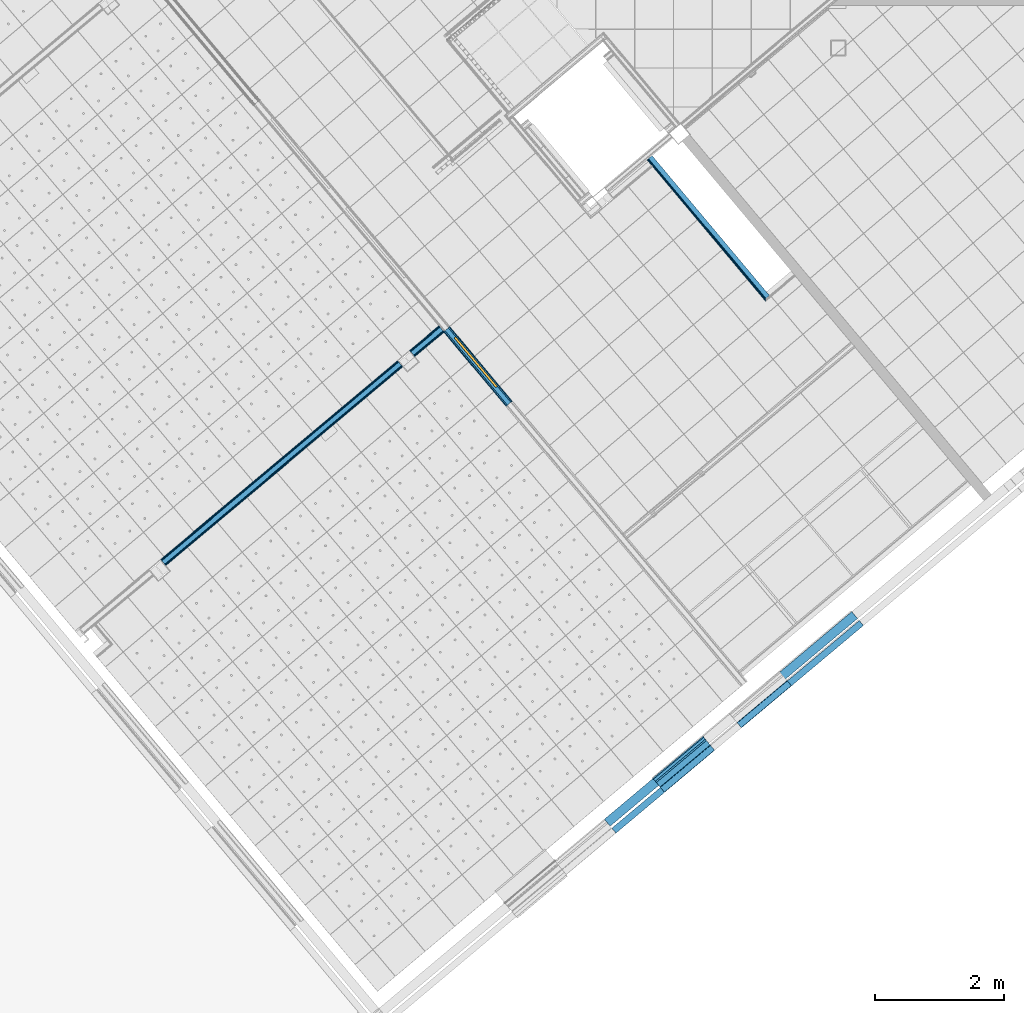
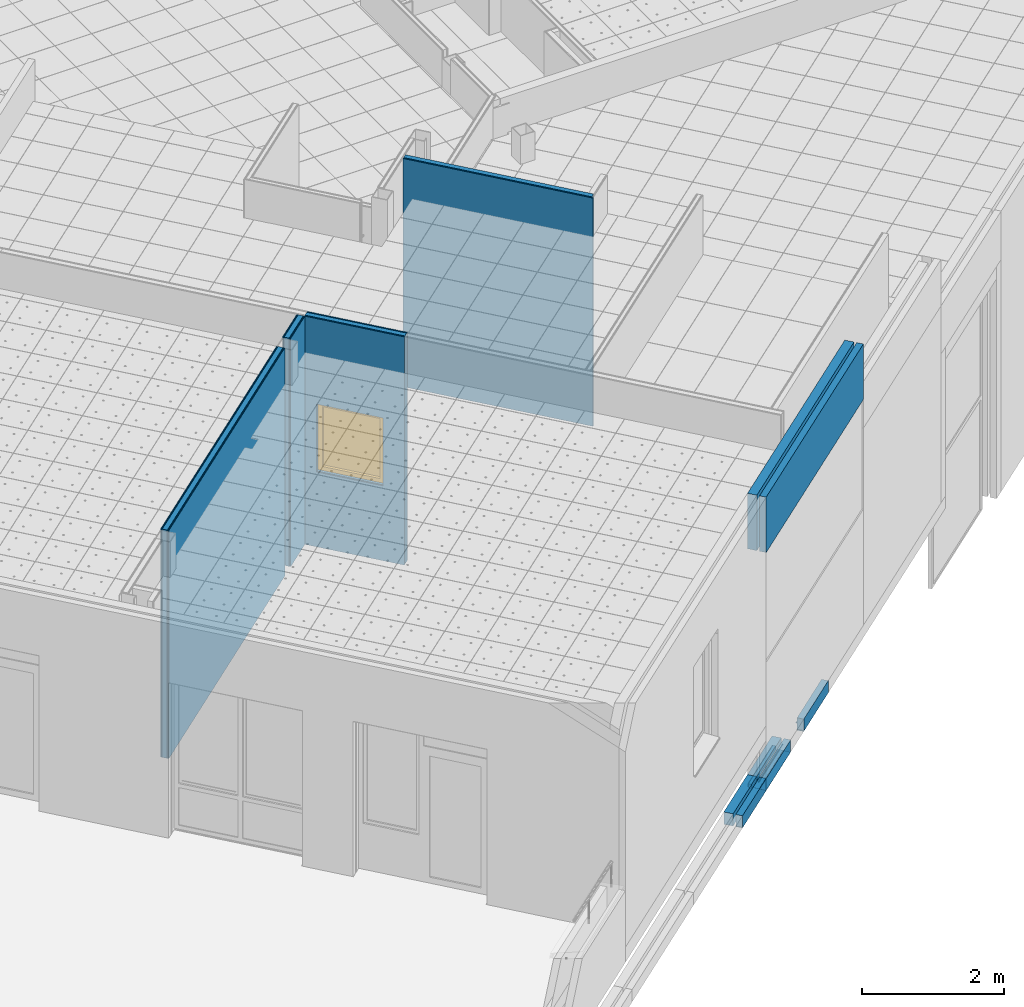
# One storey, part 52 of 321: 30 building element parts, 1 window, 1 opening, 8 elements without a shape of their own.
"""IFC2X3 building model written with IfcOpenShell, lengths in millimetres."""

from ifc_helpers import new_model, entity, si_unit, converted_unit, derived_unit, money_unit, direction, frame, origin_with_axes, place, context, subcontext, project, spatial, open_shell, faceted_brep, surface_model, material, type_object, element, fill, aggregate, save


model = new_model("IFC2X3")

# Units and contexts
model_context = context("Model", 3, precision=0.01, world=origin_with_axes(), true_north=direction((0.0, 1.0)))
plan_context = context("Plan", 3, precision=0.01, world=origin_with_axes(), true_north=direction((0.0, 1.0)))
body_context = subcontext(model_context, "Body", "Model", "MODEL_VIEW")
ifc_project = project(units=[si_unit("LENGTHUNIT", "METRE", prefix="MILLI"), si_unit("AREAUNIT", "SQUARE_METRE"), si_unit("VOLUMEUNIT", "CUBIC_METRE"), converted_unit("PLANEANGLEUNIT", "DEGREE", entity("IfcPlaneAngleMeasure", 0.0174532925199), si_unit("PLANEANGLEUNIT", "RADIAN"), dimensions=[0, 0, 0, 0, 0, 0, 0]), money_unit("EUR"), converted_unit("TIMEUNIT", "Year", entity("IfcTimeMeasure", 31556926.0), si_unit("TIMEUNIT", "SECOND"), dimensions=[0, 0, 1, 0, 0, 0, 0]), si_unit("MASSUNIT", "GRAM", prefix="KILO"), si_unit("THERMODYNAMICTEMPERATUREUNIT", "DEGREE_CELSIUS"), si_unit("LUMINOUSINTENSITYUNIT", "LUMEN"), si_unit("ENERGYUNIT", "JOULE", prefix="MEGA"), derived_unit("THERMALCONDUCTANCEUNIT", [(si_unit("POWERUNIT", "WATT"), 1), (si_unit("LENGTHUNIT", "METRE"), -1), (si_unit("THERMODYNAMICTEMPERATUREUNIT", "KELVIN"), -1)]), derived_unit("SPECIFICHEATCAPACITYUNIT", [(si_unit("ENERGYUNIT", "JOULE"), 1), (si_unit("MASSUNIT", "GRAM", prefix="KILO"), -1), (si_unit("THERMODYNAMICTEMPERATUREUNIT", "KELVIN"), -1)]), derived_unit("MASSDENSITYUNIT", [(si_unit("MASSUNIT", "GRAM", prefix="KILO"), 1), (si_unit("VOLUMEUNIT", "CUBIC_METRE"), -1)])], contexts=[model_context, plan_context])

# Site, building, storey
site_placement = place(None, origin_with_axes())
site = spatial("IfcSite", under=ifc_project, at=site_placement, Name="Fortuinstraat Woensdrecht", CompositionType="ELEMENT")
building_placement = place(site_placement, origin_with_axes())
building = spatial("IfcBuilding", under=site, at=building_placement, Name="IKC Fortuna", CompositionType="ELEMENT")
storey_placement = place(building_placement, frame((0.0, 0.0, 4000.0), z_axis=(0.0, 0.0, 1.0), x_axis=(1.0, 0.0, 0.0)))
storey = spatial("IfcBuildingStorey", under=building, at=storey_placement, Name="01 eerste verdieping", CompositionType="ELEMENT", Elevation=4000.0)

# Window
window_style = type_object("IfcWindowStyle", Name="R1 25", ConstructionType="NOTDEFINED", OperationType="SINGLE_PANEL", ParameterTakesPrecedence=False, Sizeable=False)
wall_2_placement = place(storey_placement, frame((19565.267448, -2594.74306234, 1360.0), z_axis=(0.0, 0.0, 1.0), x_axis=(0.642787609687, -0.766044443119, 0.0)))
opening_placement = place(wall_2_placement, frame((678.026057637, 0.0, 1290.0), z_axis=(0.0, 0.0, 1.0), x_axis=(1.0, 0.0, 0.0)))
window_placement = place(opening_placement, frame((500.0, 0.0, 0.0), z_axis=(0.0, 0.0, 1.0), x_axis=(-1.0, 0.0, 0.0)))
window = element("IfcWindow", 1, at=window_placement, inside=storey, type_object=window_style, Name="32_Raam_h.06", ObjectType="WINDOW", OverallHeight=1167.0, OverallWidth=1000.0, context=body_context, shape_type="SurfaceModel", body=[
    faceted_brep([(67.0, -62.5, 1100.0), (67.0, -0.500000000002, 1100.0), (0.0, -0.499999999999, 1100.0), (0.0, -62.5, 1100.0), (67.0, -62.5, 67.0), (67.0, -0.500000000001, 67.0), (0.0, -0.499999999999, 67.0), (0.0, -62.5, 67.0)], [[[0, 1, 2, 3]], [[4, 5, 1, 0]], [[1, 5, 6, 2]], [[3, 2, 6, 7]], [[0, 3, 7, 4]], [[7, 6, 5, 4]]]),
    faceted_brep([(933.0, -62.5, 67.0), (933.0, -0.500000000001, 67.0), (1000.0, -0.500000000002, 67.0), (1000.0, -62.5, 67.0), (933.0, -62.5, 1100.0), (933.0, -0.500000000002, 1100.0), (1000.0, -0.500000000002, 1100.0), (1000.0, -62.5, 1100.0)], [[[0, 1, 2, 3]], [[4, 5, 1, 0]], [[1, 5, 6, 2]], [[3, 2, 6, 7]], [[0, 3, 7, 4]], [[7, 6, 5, 4]]]),
    faceted_brep([(67.0, -62.5, 67.0), (67.0, -0.500000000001, 67.0), (0.0, -0.499999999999, 67.0), (0.0, -62.5, 67.0), (933.0, -62.5, 67.0), (933.0, -0.500000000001, 67.0), (1000.0, -0.500000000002, 67.0), (1000.0, -0.500000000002, 0.0), (0.0, -0.499999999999, 0.0), (0.0, -62.5, 0.0), (1000.0, -62.5, 0.0), (1000.0, -62.5, 67.0)], [[[0, 1, 2, 3]], [[4, 5, 1, 0]], [[1, 5, 6, 7, 8, 2]], [[3, 2, 8, 9]], [[0, 3, 9, 10, 11, 4]], [[11, 6, 5, 4]], [[10, 7, 6, 11]], [[9, 8, 7, 10]]]),
    faceted_brep([(933.0, -62.5, 1100.0), (933.0, -0.500000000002, 1100.0), (1000.0, -0.500000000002, 1100.0), (1000.0, -62.5, 1100.0), (67.0, -62.5, 1100.0), (67.0, -0.500000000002, 1100.0), (0.0, -0.499999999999, 1100.0), (0.0, -0.499999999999, 1167.0), (1000.0, -0.500000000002, 1167.0), (1000.0, -62.5, 1167.0), (0.0, -62.5, 1167.0), (0.0, -62.5, 1100.0)], [[[0, 1, 2, 3]], [[4, 5, 1, 0]], [[1, 5, 6, 7, 8, 2]], [[3, 2, 8, 9]], [[0, 3, 9, 10, 11, 4]], [[11, 6, 5, 4]], [[10, 7, 6, 11]], [[9, 8, 7, 10]]]),
    surface_model("IfcShellBasedSurfaceModel", [(67.0, -64.5, 67.0), (933.0, -64.5, 67.0), (933.0, -64.5, 1100.0), (67.0, -64.5, 1100.0)], [open_shell([[[0, 1, 2, 3]]])]),
    surface_model("IfcShellBasedSurfaceModel", [(67.0, -44.5, 67.0), (67.0, -44.5, 1100.0), (933.0, -44.5, 1100.0), (933.0, -44.5, 67.0)], [open_shell([[[0, 1, 2, 3]]])]),
])

# Covering, building element parts
covering_type_1 = type_object("IfcCoveringType", Name="41 Rollaag 280 x 210", PredefinedType="NOTDEFINED")
covering_1_placement = place(storey_placement, frame((22841.5816904, -9641.36528917, 237.5), z_axis=(0.0, 0.0, 1.0), x_axis=(-0.766044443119, -0.642787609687, 0.0)))
covering_1 = element("IfcCovering", 2, at=covering_1_placement, inside=storey, type_object=covering_type_1, Name="41_Afwerking_Rollaag", PredefinedType="NOTDEFINED")
ifc_material_1 = material(Name="Steen - Baksteen Accent Rollaag")
building_element_part_1_placement = place(covering_1_placement, origin_with_axes())
building_element_part_1 = element("IfcBuildingElementPart", 3, at=building_element_part_1_placement, material=ifc_material_1, Name="Steen - Baksteen Accent Rollaag", context=body_context, shape_type="Brep", body=[
    faceted_brep([(980.0, 40.0, 2.49999999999), (842.316577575, 40.0, 2.49999999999), (842.316577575, 40.0, 21.9276925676), (980.0, 40.0, 21.9276925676), (980.0, 40.0, 210.0), (0.0, 40.0, 210.0), (0.0, 40.0, 21.9276925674), (138.516395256, 40.0, 21.9276925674), (138.516395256, 40.0, 2.49999999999), (0.0, 40.0, 2.49999999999), (0.0, 40.0, 0.0), (980.0, 40.0, 0.0), (980.0, 128.934515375, 2.49999999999), (842.316577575, 128.934515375, 2.49999999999), (842.316577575, 128.934515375, 6.5), (842.316577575, 127.177156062, 10.7426406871), (842.316577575, 122.934515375, 12.5), (842.316577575, 50.9345153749, 12.5), (842.316577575, 42.4492340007, 16.0147186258), (980.0, 42.4492340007, 16.0147186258), (980.0, 140.0, 0.0), (980.0, 140.0, 210.0), (980.0, 50.9345153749, 12.5), (980.0, 122.934515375, 12.5), (980.0, 127.177156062, 10.7426406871), (980.0, 128.934515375, 6.5), (0.0, 140.0, 210.0), (0.0, 128.934515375, 2.49999999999), (0.0, 128.934515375, 6.5), (0.0, 127.177156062, 10.7426406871), (0.0, 122.934515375, 12.5), (0.0, 50.9345153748, 12.5), (0.0, 42.4492340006, 16.0147186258), (0.0, 140.0, 0.0), (138.516395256, 42.4492340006, 16.0147186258), (138.516395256, 50.9345153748, 12.5), (138.516395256, 122.934515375, 12.5), (138.516395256, 127.177156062, 10.7426406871), (138.516395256, 128.934515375, 6.5), (138.516395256, 128.934515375, 2.49999999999)], [[[0, 1, 2, 3, 4, 5, 6, 7, 8, 9, 10, 11]], [[1, 0, 12, 13]], [[2, 1, 13, 14, 15, 16, 17, 18]], [[3, 2, 18, 19]], [[12, 0, 11, 20, 21, 4, 3, 19, 22, 23, 24, 25]], [[5, 4, 21, 26]], [[9, 27, 28, 29, 30, 31, 32, 6, 5, 26, 33, 10]], [[6, 32, 34, 7]], [[8, 7, 34, 35, 36, 37, 38, 39]], [[27, 9, 8, 39]], [[33, 20, 11, 10]], [[12, 25, 14, 13]], [[25, 24, 15, 14]], [[24, 23, 16, 15]], [[23, 22, 17, 16]], [[22, 19, 18, 17]], [[26, 21, 20, 33]], [[28, 27, 39, 38]], [[29, 28, 38, 37]], [[30, 29, 37, 36]], [[31, 30, 36, 35]], [[32, 31, 35, 34]]]),
])
ifc_material_2 = material(Name="ALG - ISOLATIE")
building_element_part_2_placement = place(covering_1_placement, origin_with_axes())
building_element_part_2 = element("IfcBuildingElementPart", 4, at=building_element_part_2_placement, material=ifc_material_2, Name="ALG - ISOLATIE", context=body_context, shape_type="Brep", body=[
    faceted_brep([(0.0, 0.0, 0.0), (980.0, 0.0, 0.0), (980.0, -140.0, 0.0), (0.0, -140.0, 0.0), (0.0, 0.0, 210.0), (980.0, 0.0, 210.0), (980.0, -140.0, 210.0), (0.0, -140.0, 210.0)], [[[0, 1, 2, 3]], [[4, 5, 1, 0]], [[2, 1, 5, 6]], [[3, 2, 6, 7]], [[4, 0, 3, 7]], [[7, 6, 5, 4]]]),
])
aggregate(covering_1, [building_element_part_1, building_element_part_2])

# Wall, building element parts
wall_type_1 = type_object("IfcWallType", Name="21 MW hoofd 280", PredefinedType="NOTDEFINED")
wall_1_placement = place(storey_placement, frame((22751.591425, -9534.11906709, 4335.0), z_axis=(0.0, 0.0, 1.0), x_axis=(0.766044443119, 0.642787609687, 0.0)))
wall_1 = element("IfcWall", 5, at=wall_1_placement, inside=storey, type_object=wall_type_1, Name="21_Wand_Baksteen")
building_element_part_3_placement = place(wall_1_placement, origin_with_axes())
building_element_part_3 = element("IfcBuildingElementPart", 6, at=building_element_part_3_placement, material=ifc_material_2, Name="ALG - ISOLATIE", context=body_context, shape_type="Brep", body=[
    faceted_brep([(0.0, 0.0, 0.0), (4009.68348848, 0.0, 0.0), (4009.68348848, -140.0, 0.0), (0.0, -140.0, 0.0), (0.0, 0.0, 955.0), (4009.68348848, 0.0, 955.0), (4009.68348848, -140.0, 955.0), (0.0, -140.0, 955.0)], [[[0, 1, 2, 3]], [[4, 5, 1, 0]], [[2, 1, 5, 6]], [[3, 2, 6, 7]], [[4, 0, 3, 7]], [[7, 6, 5, 4]]]),
])
ifc_material_3 = material(Name="Steen - Baksteen Hoofd")
building_element_part_4_placement = place(wall_1_placement, origin_with_axes())
building_element_part_4 = element("IfcBuildingElementPart", 7, at=building_element_part_4_placement, material=ifc_material_3, Name="Steen - Baksteen Hoofd", context=body_context, shape_type="Brep", body=[
    faceted_brep([(0.0, -180.0, 0.0), (4009.68348848, -180.0, 0.0), (4009.68348848, -280.0, 0.0), (0.0, -280.0, 0.0), (0.0, -180.0, 955.0), (4009.68348848, -180.0, 955.0), (4009.68348848, -280.0, 955.0), (0.0, -280.0, 955.0)], [[[0, 1, 2, 3]], [[4, 5, 1, 0]], [[2, 1, 5, 6]], [[3, 2, 6, 7]], [[4, 0, 3, 7]], [[7, 6, 5, 4]]]),
])
aggregate(wall_1, [building_element_part_3, building_element_part_4])

# Wall, opening
wall_type_2 = type_object("IfcWallType", Name="MS125 2.75.2A 125", PredefinedType="NOTDEFINED")
wall_2 = element("IfcWall", 8, at=wall_2_placement, inside=storey, type_object=wall_type_2, Name="22_Wand_Binnenwand")
opening = element("IfcOpeningElement", 9, at=opening_placement, cuts=wall_2, Name="32_Raam_h.06", context=body_context, shape_type="Brep", body=[
    faceted_brep([(-500.0, -125.0, 0.0), (-500.0, -125.0, 1167.0), (-500.0, 250.0, 1167.0), (-500.0, 250.0, 0.0), (500.0, -125.0, 0.0), (500.0, -125.0, 1167.0), (500.0, 250.0, 1167.0), (500.0, 250.0, 0.0)], [[[0, 1, 2, 3]], [[0, 4, 5, 1]], [[1, 5, 6, 2]], [[3, 2, 6, 7]], [[4, 0, 3, 7]], [[5, 4, 7, 6]]]),
])

fill(opening, window)

# Building element part
ifc_material_4 = material(Name="Gipsplaat")
building_element_part_5_placement = place(wall_2_placement, origin_with_axes())
building_element_part_5 = element("IfcBuildingElementPart", 10, at=building_element_part_5_placement, material=ifc_material_4, Name="Gipsplaat", context=body_context, shape_type="Brep", body=[
    faceted_brep([(1500.02993951, 50.0, 3930.0), (0.0, 50.0, 3930.0), (0.0, 50.0, 0.0), (1500.02993951, 50.0, 0.0), (178.026057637, 50.0, 1290.0), (178.026057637, 50.0, 2457.0), (1178.02605764, 50.0, 2457.0), (1178.02605764, 50.0, 1290.0), (1500.02993951, 62.5, 3930.0), (0.0, 62.5, 3930.0), (0.0, 62.5, 0.0), (1500.02993951, 62.5, 0.0), (178.026057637, 62.5, 1290.0), (178.026057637, 62.5, 2457.0), (1178.02605764, 62.5, 2457.0), (1178.02605764, 62.5, 1290.0)], [[[0, 1, 2, 3], [4, 5, 6, 7]], [[8, 9, 1, 0]], [[2, 1, 9, 10]], [[3, 2, 10, 11]], [[8, 0, 3, 11]], [[12, 13, 5, 4]], [[13, 14, 6, 5]], [[14, 15, 7, 6]], [[15, 12, 4, 7]], [[11, 10, 9, 8], [12, 15, 14, 13]]]),
])

building_element_part_6_placement = place(wall_2_placement, origin_with_axes())
building_element_part_6 = element("IfcBuildingElementPart", 11, at=building_element_part_6_placement, material=ifc_material_4, Name="Gipsplaat", context=body_context, shape_type="Brep", body=[
    faceted_brep([(1500.02993951, 37.5, 3930.0), (0.0, 37.5, 3930.0), (0.0, 37.5, 0.0), (1500.02993951, 37.5, 0.0), (178.026057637, 37.5, 1290.0), (178.026057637, 37.5, 2457.0), (1178.02605764, 37.5, 2457.0), (1178.02605764, 37.5, 1290.0), (1500.02993951, 50.0, 3930.0), (0.0, 50.0, 3930.0), (0.0, 50.0, 0.0), (1500.02993951, 50.0, 0.0), (178.026057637, 50.0, 1290.0), (178.026057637, 50.0, 2457.0), (1178.02605764, 50.0, 2457.0), (1178.02605764, 50.0, 1290.0)], [[[0, 1, 2, 3], [4, 5, 6, 7]], [[8, 9, 1, 0]], [[2, 1, 9, 10]], [[3, 2, 10, 11]], [[8, 0, 3, 11]], [[12, 13, 5, 4]], [[13, 14, 6, 5]], [[14, 15, 7, 6]], [[15, 12, 4, 7]], [[11, 10, 9, 8], [12, 15, 14, 13]]]),
])

ifc_material_5 = material(Name="Isolatie - Steenwol LSW")
building_element_part_7_placement = place(wall_2_placement, origin_with_axes())
building_element_part_7 = element("IfcBuildingElementPart", 12, at=building_element_part_7_placement, material=ifc_material_5, Name="Isolatie - Steenwol LSW", context=body_context, shape_type="Brep", body=[
    faceted_brep([(1500.02993951, -37.5, 3930.0), (0.0, -37.5, 3930.0), (0.0, -37.5, 0.0), (1500.02993951, -37.5, 0.0), (178.026057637, -37.5, 1290.0), (178.026057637, -37.5, 2457.0), (1178.02605764, -37.5, 2457.0), (1178.02605764, -37.5, 1290.0), (1500.02993951, 37.5, 3930.0), (0.0, 37.5, 3930.0), (0.0, 37.5, 0.0), (1500.02993951, 37.5, 0.0), (178.026057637, 37.5, 1290.0), (178.026057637, 37.5, 2457.0), (1178.02605764, 37.5, 2457.0), (1178.02605764, 37.5, 1290.0)], [[[0, 1, 2, 3], [4, 5, 6, 7]], [[8, 9, 1, 0]], [[2, 1, 9, 10]], [[3, 2, 10, 11]], [[8, 0, 3, 11]], [[12, 13, 5, 4]], [[13, 14, 6, 5]], [[14, 15, 7, 6]], [[15, 12, 4, 7]], [[11, 10, 9, 8], [12, 15, 14, 13]]]),
])

building_element_part_8_placement = place(wall_2_placement, origin_with_axes())
building_element_part_8 = element("IfcBuildingElementPart", 13, at=building_element_part_8_placement, material=ifc_material_4, Name="Gipsplaat", context=body_context, shape_type="Brep", body=[
    faceted_brep([(1500.02993951, -50.0, 3930.0), (0.0, -50.0, 3930.0), (0.0, -50.0, 0.0), (1500.02993951, -50.0, 0.0), (178.026057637, -50.0, 1290.0), (178.026057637, -50.0, 2457.0), (1178.02605764, -50.0, 2457.0), (1178.02605764, -50.0, 1290.0), (1500.02993951, -37.5, 3930.0), (0.0, -37.5, 3930.0), (0.0, -37.5, 0.0), (1500.02993951, -37.5, 0.0), (178.026057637, -37.5, 1290.0), (178.026057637, -37.5, 2457.0), (1178.02605764, -37.5, 2457.0), (1178.02605764, -37.5, 1290.0)], [[[0, 1, 2, 3], [4, 5, 6, 7]], [[8, 9, 1, 0]], [[2, 1, 9, 10]], [[3, 2, 10, 11]], [[8, 0, 3, 11]], [[12, 13, 5, 4]], [[13, 14, 6, 5]], [[14, 15, 7, 6]], [[15, 12, 4, 7]], [[11, 10, 9, 8], [12, 15, 14, 13]]]),
])

building_element_part_9_placement = place(wall_2_placement, origin_with_axes())
building_element_part_9 = element("IfcBuildingElementPart", 14, at=building_element_part_9_placement, material=ifc_material_4, Name="Gipsplaat", context=body_context, shape_type="Brep", body=[
    faceted_brep([(1500.02993951, -62.5, 3930.0), (0.0, -62.5, 3930.0), (0.0, -62.5, 0.0), (1500.02993951, -62.5, 0.0), (178.026057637, -62.5, 1290.0), (178.026057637, -62.5, 2457.0), (1178.02605764, -62.5, 2457.0), (1178.02605764, -62.5, 1290.0), (1500.02993951, -50.0, 3930.0), (0.0, -50.0, 3930.0), (0.0, -50.0, 0.0), (1500.02993951, -50.0, 0.0), (178.026057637, -50.0, 1290.0), (178.026057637, -50.0, 2457.0), (1178.02605764, -50.0, 2457.0), (1178.02605764, -50.0, 1290.0)], [[[0, 1, 2, 3], [4, 5, 6, 7]], [[8, 9, 1, 0]], [[2, 1, 9, 10]], [[3, 2, 10, 11]], [[8, 0, 3, 11]], [[12, 13, 5, 4]], [[13, 14, 6, 5]], [[14, 15, 7, 6]], [[15, 12, 4, 7]], [[11, 10, 9, 8], [12, 15, 14, 13]]]),
])

aggregate(wall_2, [building_element_part_5, building_element_part_6, building_element_part_7, building_element_part_8, building_element_part_9])

# Wall, building element parts
wall_3_placement = place(storey_placement, frame((15185.528893, -6197.98267225, 1360.0), z_axis=(0.0, 0.0, 1.0), x_axis=(0.766044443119, 0.642787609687, 0.0)))
wall_3 = element("IfcWall", 15, at=wall_3_placement, inside=storey, type_object=wall_type_2, Name="22_Wand_Binnenwand")
building_element_part_10_placement = place(wall_3_placement, origin_with_axes())
building_element_part_10 = element("IfcBuildingElementPart", 16, at=building_element_part_10_placement, material=ifc_material_4, Name="Gipsplaat", context=body_context, shape_type="Brep", body=[
    faceted_brep([(4778.82035644, 62.5, 0.0), (4778.82035644, 50.0, 0.0), (0.0, 50.0, 0.0), (0.0, 62.5, 0.0), (4778.82035644, 62.5, 3930.0), (4778.82035644, 50.0, 3930.0), (0.0, 50.0, 3930.0), (0.0, 62.5, 3930.0)], [[[0, 1, 2, 3]], [[0, 4, 5, 1]], [[1, 5, 6, 2]], [[3, 2, 6, 7]], [[4, 0, 3, 7]], [[5, 4, 7, 6]]]),
])
building_element_part_11_placement = place(wall_3_placement, origin_with_axes())
building_element_part_11 = element("IfcBuildingElementPart", 17, at=building_element_part_11_placement, material=ifc_material_4, Name="Gipsplaat", context=body_context, shape_type="Brep", body=[
    faceted_brep([(4778.82035644, 50.0, 0.0), (4778.82035644, 37.5, 0.0), (0.0, 37.5, 0.0), (0.0, 50.0, 0.0), (4778.82035644, 50.0, 3930.0), (4778.82035644, 37.5, 3930.0), (0.0, 37.5, 3930.0), (0.0, 50.0, 3930.0)], [[[0, 1, 2, 3]], [[0, 4, 5, 1]], [[1, 5, 6, 2]], [[3, 2, 6, 7]], [[4, 0, 3, 7]], [[5, 4, 7, 6]]]),
])
building_element_part_12_placement = place(wall_3_placement, origin_with_axes())
building_element_part_12 = element("IfcBuildingElementPart", 18, at=building_element_part_12_placement, material=ifc_material_5, Name="Isolatie - Steenwol LSW", context=body_context, shape_type="Brep", body=[
    faceted_brep([(4778.82035644, 37.5, 0.0), (4778.82035644, -37.5, 0.0), (0.0, -37.5, 0.0), (0.0, 37.5, 0.0), (4778.82035644, 37.5, 3930.0), (4778.82035644, -37.5, 3930.0), (0.0, -37.5, 3930.0), (0.0, 37.5, 3930.0)], [[[0, 1, 2, 3]], [[0, 4, 5, 1]], [[1, 5, 6, 2]], [[3, 2, 6, 7]], [[4, 0, 3, 7]], [[5, 4, 7, 6]]]),
])
building_element_part_13_placement = place(wall_3_placement, origin_with_axes())
building_element_part_13 = element("IfcBuildingElementPart", 19, at=building_element_part_13_placement, material=ifc_material_4, Name="Gipsplaat", context=body_context, shape_type="Brep", body=[
    faceted_brep([(4778.82035644, -37.5, 0.0), (4778.82035644, -50.0, 0.0), (0.0, -50.0, 0.0), (0.0, -37.5, 0.0), (4778.82035644, -37.5, 3930.0), (4778.82035644, -50.0, 3930.0), (0.0, -50.0, 3930.0), (0.0, -37.5, 3930.0)], [[[0, 1, 2, 3]], [[0, 4, 5, 1]], [[1, 5, 6, 2]], [[3, 2, 6, 7]], [[4, 0, 3, 7]], [[5, 4, 7, 6]]]),
])
building_element_part_14_placement = place(wall_3_placement, origin_with_axes())
building_element_part_14 = element("IfcBuildingElementPart", 20, at=building_element_part_14_placement, material=ifc_material_4, Name="Gipsplaat", context=body_context, shape_type="Brep", body=[
    faceted_brep([(4778.82035644, -50.0, 0.0), (4778.82035644, -62.5, 0.0), (0.0, -62.5, 0.0), (0.0, -50.0, 0.0), (4778.82035644, -50.0, 3930.0), (4778.82035644, -62.5, 3930.0), (0.0, -62.5, 3930.0), (0.0, -50.0, 3930.0)], [[[0, 1, 2, 3]], [[0, 4, 5, 1]], [[1, 5, 6, 2]], [[3, 2, 6, 7]], [[4, 0, 3, 7]], [[5, 4, 7, 6]]]),
])
aggregate(wall_3, [building_element_part_10, building_element_part_11, building_element_part_12, building_element_part_13, building_element_part_14])

wall_4_placement = place(storey_placement, frame((19033.9980276, -2968.73255897, 1360.0), z_axis=(0.0, 0.0, 1.0), x_axis=(0.766044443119, 0.642787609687, 0.0)))
wall_4 = element("IfcWall", 21, at=wall_4_placement, inside=storey, type_object=wall_type_2, Name="22_Wand_Binnenwand")
building_element_part_15_placement = place(wall_4_placement, origin_with_axes())
building_element_part_15 = element("IfcBuildingElementPart", 22, at=building_element_part_15_placement, material=ifc_material_4, Name="Gipsplaat", context=body_context, shape_type="Brep", body=[
    faceted_brep([(588.32221341, 50.0, 0.0), (0.0, 50.0, 0.0), (0.0, 62.5, 0.0), (588.31389247, 62.5, 0.0), (588.32221341, 50.0, 3930.0), (0.0, 50.0, 3930.0), (0.0, 62.5, 3930.0), (588.31389247, 62.5, 3930.0)], [[[0, 1, 2, 3]], [[4, 5, 1, 0]], [[2, 1, 5, 6]], [[3, 2, 6, 7]], [[3, 7, 4, 0]], [[7, 6, 5, 4]]]),
])
building_element_part_16_placement = place(wall_4_placement, origin_with_axes())
building_element_part_16 = element("IfcBuildingElementPart", 23, at=building_element_part_16_placement, material=ifc_material_4, Name="Gipsplaat", context=body_context, shape_type="Brep", body=[
    faceted_brep([(588.330534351, 37.5, 0.0), (0.0, 37.5, 0.0), (0.0, 50.0, 0.0), (588.32221341, 50.0, 0.0), (588.330534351, 37.5, 3930.0), (0.0, 37.5, 3930.0), (0.0, 50.0, 3930.0), (588.32221341, 50.0, 3930.0)], [[[0, 1, 2, 3]], [[4, 5, 1, 0]], [[2, 1, 5, 6]], [[3, 2, 6, 7]], [[3, 7, 4, 0]], [[7, 6, 5, 4]]]),
])
building_element_part_17_placement = place(wall_4_placement, origin_with_axes())
building_element_part_17 = element("IfcBuildingElementPart", 24, at=building_element_part_17_placement, material=ifc_material_5, Name="Isolatie - Steenwol LSW", context=body_context, shape_type="Brep", body=[
    faceted_brep([(588.380459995, -37.5, 0.0), (0.0, -37.5, 0.0), (0.0, 37.5, 0.0), (588.330534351, 37.5, 0.0), (588.380459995, -37.5, 3930.0), (0.0, -37.5, 3930.0), (0.0, 37.5, 3930.0), (588.330534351, 37.5, 3930.0)], [[[0, 1, 2, 3]], [[4, 5, 1, 0]], [[2, 1, 5, 6]], [[3, 2, 6, 7]], [[3, 7, 4, 0]], [[7, 6, 5, 4]]]),
])
building_element_part_18_placement = place(wall_4_placement, origin_with_axes())
building_element_part_18 = element("IfcBuildingElementPart", 25, at=building_element_part_18_placement, material=ifc_material_4, Name="Gipsplaat", context=body_context, shape_type="Brep", body=[
    faceted_brep([(588.388780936, -50.0, 0.0), (0.0, -50.0, 0.0), (0.0, -37.5, 0.0), (588.380459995, -37.5, 0.0), (588.388780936, -50.0, 3930.0), (0.0, -50.0, 3930.0), (0.0, -37.5, 3930.0), (588.380459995, -37.5, 3930.0)], [[[0, 1, 2, 3]], [[4, 5, 1, 0]], [[2, 1, 5, 6]], [[3, 2, 6, 7]], [[3, 7, 4, 0]], [[7, 6, 5, 4]]]),
])
building_element_part_19_placement = place(wall_4_placement, origin_with_axes())
building_element_part_19 = element("IfcBuildingElementPart", 26, at=building_element_part_19_placement, material=ifc_material_4, Name="Gipsplaat", context=body_context, shape_type="Brep", body=[
    faceted_brep([(588.397101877, -62.5, 0.0), (0.0, -62.5, 0.0), (0.0, -50.0, 0.0), (588.388780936, -50.0, 0.0), (588.397101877, -62.5, 3930.0), (0.0, -62.5, 3930.0), (0.0, -50.0, 3930.0), (588.388780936, -50.0, 3930.0)], [[[0, 1, 2, 3]], [[4, 5, 1, 0]], [[2, 1, 5, 6]], [[3, 2, 6, 7]], [[3, 7, 4, 0]], [[7, 6, 5, 4]]]),
])
aggregate(wall_4, [building_element_part_15, building_element_part_16, building_element_part_17, building_element_part_18, building_element_part_19])

wall_type_3 = type_object("IfcWallType", Name="MS100 75.2A 100", PredefinedType="NOTDEFINED")
wall_5_placement = place(storey_placement, frame((22636.2333561, 53.9006994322, 1360.0), z_axis=(0.0, 0.0, 1.0), x_axis=(0.642787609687, -0.766044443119, 0.0)))
wall_5 = element("IfcWall", 27, at=wall_5_placement, inside=storey, type_object=wall_type_3, Name="22_Wand_Binnenwand")
building_element_part_20_placement = place(wall_5_placement, origin_with_axes())
building_element_part_20 = element("IfcBuildingElementPart", 28, at=building_element_part_20_placement, material=ifc_material_5, Name="Isolatie - Steenwol LSW", context=body_context, shape_type="Brep", body=[
    faceted_brep([(2862.50000486, 25.0, 0.0), (37.5, 25.0, 0.0), (37.5, 100.0, 0.0), (2862.50000486, 100.0, 0.0), (2862.50000486, 25.0, 3930.0), (37.5, 25.0, 3930.0), (37.5, 100.0, 3930.0), (2862.50000486, 100.0, 3930.0)], [[[0, 1, 2, 3]], [[4, 5, 1, 0]], [[2, 1, 5, 6]], [[3, 2, 6, 7]], [[3, 7, 4, 0]], [[7, 6, 5, 4]]]),
])
building_element_part_21_placement = place(wall_5_placement, origin_with_axes())
building_element_part_21 = element("IfcBuildingElementPart", 29, at=building_element_part_21_placement, material=ifc_material_4, Name="Gipsplaat", context=body_context, shape_type="Brep", body=[
    faceted_brep([(2875.00000486, 12.5, 0.0), (37.5, 12.5, 0.0), (37.5, 25.0, 0.0), (2875.00000486, 25.0, 0.0), (2875.00000486, 12.5, 3930.0), (37.5, 12.5, 3930.0), (37.5, 25.0, 3930.0), (2875.00000486, 25.0, 3930.0)], [[[0, 1, 2, 3]], [[4, 5, 1, 0]], [[2, 1, 5, 6]], [[3, 2, 6, 7]], [[3, 7, 4, 0]], [[7, 6, 5, 4]]]),
])
building_element_part_22_placement = place(wall_5_placement, origin_with_axes())
building_element_part_22 = element("IfcBuildingElementPart", 30, at=building_element_part_22_placement, material=ifc_material_4, Name="Gipsplaat", context=body_context, shape_type="Brep", body=[
    faceted_brep([(2887.50000486, 0.0, 0.0), (37.5, 0.0, 0.0), (37.5, 12.5, 0.0), (2887.50000486, 12.5, 0.0), (2887.50000486, 0.0, 3930.0), (37.5, 0.0, 3930.0), (37.5, 12.5, 3930.0), (2887.50000486, 12.5, 3930.0)], [[[0, 1, 2, 3]], [[4, 5, 1, 0]], [[2, 1, 5, 6]], [[3, 2, 6, 7]], [[3, 7, 4, 0]], [[7, 6, 5, 4]]]),
])
aggregate(wall_5, [building_element_part_20, building_element_part_21, building_element_part_22])

# Covering, building element parts
covering_type_2 = type_object("IfcCoveringType", Name="41 Latei MW rollaag 280 x 227", PredefinedType="NOTDEFINED")
covering_2_placement = place(storey_placement, frame((24802.6554647, -7995.82900838, 237.5), z_axis=(0.0, 0.0, 1.0), x_axis=(-0.766044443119, -0.642787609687, 0.0)))
covering_2 = element("IfcCovering", 31, at=covering_2_placement, inside=storey, type_object=covering_type_2, Name="41_Afwerking_Latei + rollaag", PredefinedType="NOTDEFINED")
ifc_material_6 = material(Name="Metaal - Staal C")
building_element_part_23_placement = place(covering_2_placement, origin_with_axes())
building_element_part_23 = element("IfcBuildingElementPart", 32, at=building_element_part_23_placement, material=ifc_material_6, Name="Metaal - Staal C", context=body_context, shape_type="Brep", body=[
    faceted_brep([(1010.0, 28.9345153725, 113.654953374), (0.0, 28.9345153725, 113.654953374), (0.0, 20.8284271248, 121.828427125), (1010.0, 20.8284271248, 121.828427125), (0.0, 28.9345153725, 108.065484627), (1010.0, 28.9345153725, 108.065484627), (0.0, 18.0000000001, 119.0), (1010.0, 18.0000000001, 119.0)], [[[0, 1, 2, 3]], [[4, 1, 0, 5]], [[1, 4, 6, 2]], [[6, 7, 3, 2]], [[5, 0, 3, 7]], [[4, 5, 7, 6]]]),
    faceted_brep([(0.0, 32.0, 2.49999999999), (0.0, 36.6213203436, 2.49999999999), (0.0, 37.1715728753, 1.17157287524), (0.0, 40.0, 0.0), (0.0, 115.609685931, 0.0), (0.0, 136.0, -4.07767729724), (0.0, 135.215535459, -8.0), (0.0, 115.215535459, -4.0), (0.0, 36.0, -4.0), (0.0, 33.1715728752, -2.82842712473), (0.0, 32.0, 0.0), (1010.0, 36.6213203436, 2.49999999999), (1010.0, 32.0, 2.49999999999), (1010.0, 37.1715728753, 1.17157287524), (1010.0, 40.0, 0.0), (1010.0, 115.609685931, 0.0), (1010.0, 136.0, -4.07767729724), (1010.0, 135.215535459, -8.0), (1010.0, 115.215535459, -4.0), (1010.0, 36.0, -4.0), (1010.0, 33.1715728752, -2.82842712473), (1010.0, 32.0, 0.0)], [[[0, 1, 2, 3, 4, 5, 6, 7, 8, 9, 10]], [[11, 1, 0, 12]], [[1, 11, 13, 2]], [[2, 13, 14, 3]], [[3, 14, 15, 4]], [[4, 15, 16, 5]], [[5, 16, 17, 6]], [[6, 17, 18, 7]], [[7, 18, 19, 8]], [[8, 19, 20, 9]], [[9, 20, 21, 10]], [[12, 0, 10, 21]], [[11, 12, 21, 20, 19, 18, 17, 16, 15, 14, 13]]]),
])
building_element_part_24_placement = place(covering_2_placement, origin_with_axes())
building_element_part_24 = element("IfcBuildingElementPart", 33, at=building_element_part_24_placement, material=ifc_material_1, Name="Steen - Baksteen Accent Rollaag", context=body_context, shape_type="Brep", body=[
    faceted_brep([(0.0, 40.0, 2.49999999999), (0.0, 128.934515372, 2.49999999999), (0.0, 128.934515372, 6.5), (0.0, 127.17715606, 10.7426406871), (0.0, 122.934515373, 12.5), (0.0, 50.9345153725, 12.5), (0.0, 42.4492339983, 16.0147186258), (0.0, 40.0, 21.9276925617), (0.0, 40.0, 210.0), (0.0, 140.0, 210.0), (0.0, 140.0, 0.0), (0.0, 115.609685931, 0.0), (0.0, 40.0, 0.0), (1010.0, 40.0, 2.49999999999), (1010.0, 128.934515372, 2.49999999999), (1010.0, 128.934515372, 6.5), (1010.0, 127.17715606, 10.7426406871), (1010.0, 122.934515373, 12.5), (1010.0, 50.9345153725, 12.5), (1010.0, 42.4492339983, 16.0147186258), (1010.0, 40.0, 21.9276925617), (1010.0, 40.0, 210.0), (1010.0, 140.0, 210.0), (1010.0, 140.0, 0.0), (1010.0, 115.609685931, 0.0), (1010.0, 40.0, 0.0)], [[[0, 1, 2, 3, 4, 5, 6, 7, 8, 9, 10, 11, 12]], [[1, 0, 13, 14]], [[2, 1, 14, 15]], [[3, 2, 15, 16]], [[4, 3, 16, 17]], [[5, 4, 17, 18]], [[6, 5, 18, 19]], [[7, 6, 19, 20]], [[7, 20, 21, 8]], [[8, 21, 22, 9]], [[9, 22, 23, 10]], [[10, 23, 24, 11]], [[11, 24, 25, 12]], [[13, 0, 12, 25]], [[14, 13, 25, 24, 23, 22, 21, 20, 19, 18, 17, 16, 15]]]),
])
aggregate(covering_2, [building_element_part_23, building_element_part_24])

covering_3_placement = place(storey_placement, frame((23615.2865779, -8992.14980339, 237.5), z_axis=(0.0, 0.0, 1.0), x_axis=(-0.766044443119, -0.642787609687, 0.0)))
covering_3 = element("IfcCovering", 34, at=covering_3_placement, inside=storey, type_object=covering_type_2, Name="41_Afwerking_Latei + rollaag", PredefinedType="NOTDEFINED")
building_element_part_25_placement = place(covering_3_placement, origin_with_axes())
building_element_part_25 = element("IfcBuildingElementPart", 35, at=building_element_part_25_placement, material=ifc_material_6, Name="Metaal - Staal C", context=body_context, shape_type="Brep", body=[
    faceted_brep([(1010.0, 28.934515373, 113.654953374), (0.0, 28.934515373, 113.654953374), (0.0, 20.8284271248, 121.828427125), (1010.0, 20.8284271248, 121.828427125), (0.0, 28.934515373, 108.065484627), (1010.0, 28.934515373, 108.065484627), (0.0, 18.0000000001, 119.0), (1010.0, 18.0000000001, 119.0)], [[[0, 1, 2, 3]], [[4, 1, 0, 5]], [[1, 4, 6, 2]], [[6, 7, 3, 2]], [[5, 0, 3, 7]], [[4, 5, 7, 6]]]),
    faceted_brep([(0.0, 32.0, 2.49999999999), (0.0, 36.6213203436, 2.49999999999), (0.0, 37.1715728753, 1.17157287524), (0.0, 40.0, 0.0), (0.0, 115.609685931, 0.0), (0.0, 136.0, -4.07767729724), (0.0, 135.215535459, -8.0), (0.0, 115.215535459, -4.0), (0.0, 36.0, -4.0), (0.0, 33.1715728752, -2.82842712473), (0.0, 32.0, 0.0), (1010.0, 36.6213203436, 2.49999999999), (1010.0, 32.0, 2.49999999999), (1010.0, 37.1715728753, 1.17157287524), (1010.0, 40.0, 0.0), (1010.0, 115.609685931, 0.0), (1010.0, 136.0, -4.07767729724), (1010.0, 135.215535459, -8.0), (1010.0, 115.215535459, -4.0), (1010.0, 36.0, -4.0), (1010.0, 33.1715728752, -2.82842712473), (1010.0, 32.0, 0.0)], [[[0, 1, 2, 3, 4, 5, 6, 7, 8, 9, 10]], [[11, 1, 0, 12]], [[1, 11, 13, 2]], [[2, 13, 14, 3]], [[3, 14, 15, 4]], [[4, 15, 16, 5]], [[5, 16, 17, 6]], [[6, 17, 18, 7]], [[7, 18, 19, 8]], [[8, 19, 20, 9]], [[9, 20, 21, 10]], [[12, 0, 10, 21]], [[11, 12, 21, 20, 19, 18, 17, 16, 15, 14, 13]]]),
])
building_element_part_26_placement = place(covering_3_placement, origin_with_axes())
building_element_part_26 = element("IfcBuildingElementPart", 36, at=building_element_part_26_placement, material=ifc_material_1, Name="Steen - Baksteen Accent Rollaag", context=body_context, shape_type="Brep", body=[
    faceted_brep([(0.0, 40.0, 2.49999999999), (0.0, 128.934515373, 2.49999999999), (0.0, 128.934515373, 6.5), (0.0, 127.17715606, 10.7426406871), (0.0, 122.934515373, 12.5), (0.0, 50.934515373, 12.5), (0.0, 42.4492339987, 16.0147186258), (0.0, 40.0, 21.9276925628), (0.0, 40.0, 210.0), (0.0, 140.0, 210.0), (0.0, 140.0, 0.0), (0.0, 115.609685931, 0.0), (0.0, 40.0, 0.0), (1010.0, 40.0, 2.49999999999), (1010.0, 128.934515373, 2.49999999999), (1010.0, 128.934515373, 6.5), (1010.0, 127.17715606, 10.7426406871), (1010.0, 122.934515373, 12.5), (1010.0, 50.934515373, 12.5), (1010.0, 42.4492339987, 16.0147186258), (1010.0, 40.0, 21.9276925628), (1010.0, 40.0, 210.0), (1010.0, 140.0, 210.0), (1010.0, 140.0, 0.0), (1010.0, 115.609685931, 0.0), (1010.0, 40.0, 0.0)], [[[0, 1, 2, 3, 4, 5, 6, 7, 8, 9, 10, 11, 12]], [[1, 0, 13, 14]], [[2, 1, 14, 15]], [[3, 2, 15, 16]], [[4, 3, 16, 17]], [[5, 4, 17, 18]], [[6, 5, 18, 19]], [[7, 6, 19, 20]], [[7, 20, 21, 8]], [[8, 21, 22, 9]], [[9, 22, 23, 10]], [[10, 23, 24, 11]], [[11, 24, 25, 12]], [[13, 0, 12, 25]], [[14, 13, 25, 24, 23, 22, 21, 20, 19, 18, 17, 16, 15]]]),
])
ifc_material_7 = material(Name="Metaal - Staal AFW")
building_element_part_27_placement = place(covering_3_placement, origin_with_axes())
building_element_part_27 = element("IfcBuildingElementPart", 37, at=building_element_part_27_placement, material=ifc_material_7, Name="Metaal - Staal AFW", context=body_context, shape_type="Brep", body=[
    faceted_brep([(0.0, 28.934515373, 4.0), (0.0, 28.934515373, 2.49999999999), (0.0, 32.0, 2.49999999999), (0.0, 32.0, 0.0), (0.0, -58.0, 0.0), (0.0, -58.0, 4.0), (1010.0, 28.934515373, 4.0), (1010.0, 28.934515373, 2.49999999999), (1010.0, 32.0, 2.49999999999), (1010.0, 32.0, 0.0), (1010.0, -58.0, 0.0), (1010.0, -58.0, 4.0)], [[[0, 1, 2, 3, 4, 5]], [[1, 0, 6, 7]], [[8, 2, 1, 7]], [[2, 8, 9, 3]], [[3, 9, 10, 4]], [[4, 10, 11, 5]], [[6, 0, 5, 11]], [[7, 6, 11, 10, 9, 8]]]),
])
building_element_part_28_placement = place(covering_3_placement, origin_with_axes())
building_element_part_28 = element("IfcBuildingElementPart", 38, at=building_element_part_28_placement, material=ifc_material_2, Name="ALG - ISOLATIE", context=body_context, shape_type="Brep", body=[
    faceted_brep([(0.0, -140.0, 53.0), (1010.0, -140.0, 53.0), (1010.0, -140.0, 210.0), (0.0, -140.0, 210.0), (0.0, -83.9999988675, 53.0000013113), (1010.0, -83.9999988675, 53.0000013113), (1010.0, 0.0, 53.0), (1010.0, 0.0, 210.0), (0.0, 0.0, 210.0), (0.0, 0.0, 53.0)], [[[0, 1, 2, 3]], [[4, 5, 1, 0]], [[2, 1, 5, 6, 7]], [[3, 2, 7, 8]], [[4, 0, 3, 8, 9]], [[9, 6, 5, 4]], [[8, 7, 6, 9]]]),
])
ifc_material_8 = material(Name="Hout AFW")
building_element_part_29_placement = place(covering_3_placement, origin_with_axes())
building_element_part_29 = element("IfcBuildingElementPart", 39, at=building_element_part_29_placement, material=ifc_material_8, Name="Hout AFW", context=body_context, shape_type="Brep", body=[
    faceted_brep([(0.0, -127.999998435, 53.0000013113), (1010.0, -127.999998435, 53.0000013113), (1010.0, -83.9999988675, 53.0000013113), (0.0, -83.9999988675, 53.0000013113), (0.0, -127.999998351, -1.28576260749e-07), (1010.0, -127.999998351, -1.28576260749e-07), (1010.0, -127.999998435, -17.0), (1010.0, -83.9999988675, -17.0), (0.0, -83.9999988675, -17.0), (0.0, -127.999998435, -17.0)], [[[0, 1, 2, 3]], [[4, 5, 1, 0]], [[2, 1, 5, 6, 7]], [[3, 2, 7, 8]], [[4, 0, 3, 8, 9]], [[9, 6, 5, 4]], [[8, 7, 6, 9]]]),
])
ifc_material_9 = material(Name="Isolatie - PUR gespoten")
building_element_part_30_placement = place(covering_3_placement, origin_with_axes())
building_element_part_30 = element("IfcBuildingElementPart", 40, at=building_element_part_30_placement, material=ifc_material_9, Name="Isolatie - PUR gespoten", context=body_context, shape_type="Brep", body=[
    faceted_brep([(0.0, -139.999999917, 53.0000002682), (1010.0, -139.999999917, 53.0000002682), (1010.0, -127.999998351, 53.0000013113), (0.0, -127.999998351, 53.0000013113), (0.0, -139.999999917, -1.28576260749e-07), (1010.0, -139.999999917, -1.28576260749e-07), (1010.0, -127.999998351, -1.28576260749e-07), (0.0, -127.999998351, -1.28576260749e-07)], [[[0, 1, 2, 3]], [[4, 5, 1, 0]], [[2, 1, 5, 6]], [[3, 2, 6, 7]], [[4, 0, 3, 7]], [[7, 6, 5, 4]]]),
])
aggregate(covering_3, [building_element_part_25, building_element_part_26, building_element_part_27, building_element_part_28, building_element_part_29, building_element_part_30])

save(model, "model.ifc")
